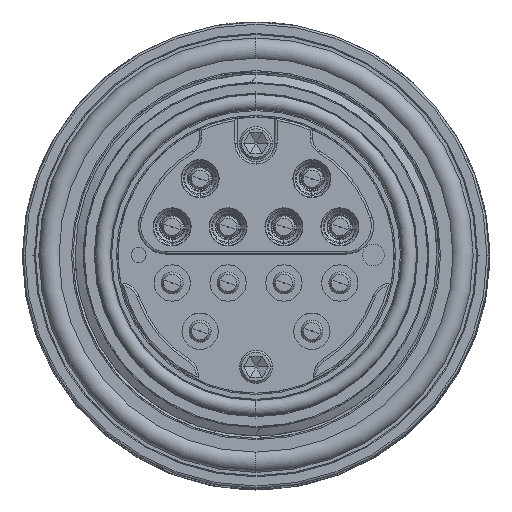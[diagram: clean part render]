
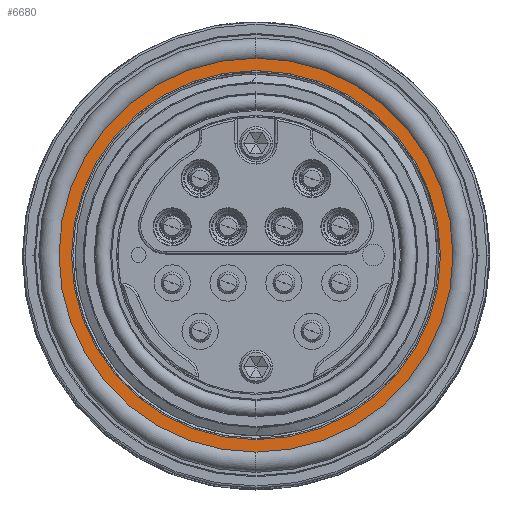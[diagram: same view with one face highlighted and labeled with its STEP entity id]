
A CAD part, top view. The second image highlights one B-rep face of the part: STEP entity #6680.
In plain terms, the highlighted planar face has unit normal (0, 0, 1).
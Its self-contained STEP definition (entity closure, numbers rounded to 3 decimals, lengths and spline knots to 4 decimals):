
#1917 = AXIS2_PLACEMENT_3D ( 'NONE', #44600, #92074, #90829 ) ;
#5339 = VERTEX_POINT ( 'NONE', #93580 ) ;
#6680 = ADVANCED_FACE ( 'NONE', ( #22360, #99563 ), #116722, .F. ) ;
#8022 = EDGE_CURVE ( 'NONE', #84928, #5339, #79585, .T. ) ;
#11185 = CARTESIAN_POINT ( 'NONE',  ( 0., -0.8809, -0.515 ) ) ;
#12459 = ORIENTED_EDGE ( 'NONE', *, *, #8022, .F. ) ;
#22360 = FACE_BOUND ( 'NONE', #39298, .T. ) ;
#23469 = DIRECTION ( 'NONE',  ( 1., 0., 0. ) ) ;
#26951 = EDGE_LOOP ( 'NONE', ( #12459, #123073 ) ) ;
#28556 = CARTESIAN_POINT ( 'NONE',  ( 0., 0., -0.515 ) ) ;
#29984 = CARTESIAN_POINT ( 'NONE',  ( 0., 0.8825, -0.515 ) ) ;
#39298 = EDGE_LOOP ( 'NONE', ( #82245, #96781 ) ) ;
#44600 = CARTESIAN_POINT ( 'NONE',  ( 0., 0., -0.515 ) ) ;
#45275 = DIRECTION ( 'NONE',  ( 0., 0., -1. ) ) ;
#48805 = DIRECTION ( 'NONE',  ( 1., 0., 0. ) ) ;
#50769 = EDGE_CURVE ( 'NONE', #68767, #116094, #108609, .T. ) ;
#51588 = AXIS2_PLACEMENT_3D ( 'NONE', #63300, #81663, #23469 ) ;
#53565 = CIRCLE ( 'NONE', #51588, 0.825 ) ;
#56489 = CIRCLE ( 'NONE', #1917, 0.8809 ) ;
#63015 = DIRECTION ( 'NONE',  ( 1., 0., 0. ) ) ;
#63300 = CARTESIAN_POINT ( 'NONE',  ( 0., 0., -0.515 ) ) ;
#63399 = AXIS2_PLACEMENT_3D ( 'NONE', #121295, #45275, #63015 ) ;
#68595 = DIRECTION ( 'NONE',  ( 0., 0., -1. ) ) ;
#68767 = VERTEX_POINT ( 'NONE', #83967 ) ;
#78292 = AXIS2_PLACEMENT_3D ( 'NONE', #28556, #87390, #48805 ) ;
#79585 = CIRCLE ( 'NONE', #63399, 0.8809 ) ;
#81663 = DIRECTION ( 'NONE',  ( 0., 0., 1. ) ) ;
#82245 = ORIENTED_EDGE ( 'NONE', *, *, #50769, .F. ) ;
#83967 = CARTESIAN_POINT ( 'NONE',  ( 0.825, 0., -0.515 ) ) ;
#84928 = VERTEX_POINT ( 'NONE', #11185 ) ;
#87390 = DIRECTION ( 'NONE',  ( 0., 0., 1. ) ) ;
#87997 = EDGE_CURVE ( 'NONE', #5339, #84928, #56489, .T. ) ;
#90829 = DIRECTION ( 'NONE',  ( 1., 0., 0. ) ) ;
#92074 = DIRECTION ( 'NONE',  ( 0., 0., -1. ) ) ;
#93580 = CARTESIAN_POINT ( 'NONE',  ( 0., 0.8809, -0.515 ) ) ;
#96458 = CARTESIAN_POINT ( 'NONE',  ( -0.825, 0., -0.515 ) ) ;
#96781 = ORIENTED_EDGE ( 'NONE', *, *, #118924, .F. ) ;
#99563 = FACE_OUTER_BOUND ( 'NONE', #26951, .T. ) ;
#103797 = AXIS2_PLACEMENT_3D ( 'NONE', #29984, #68595, #107224 ) ;
#107224 = DIRECTION ( 'NONE',  ( -1., 0., 0. ) ) ;
#108609 = CIRCLE ( 'NONE', #78292, 0.825 ) ;
#116094 = VERTEX_POINT ( 'NONE', #96458 ) ;
#116722 = PLANE ( 'NONE',  #103797 ) ;
#118924 = EDGE_CURVE ( 'NONE', #116094, #68767, #53565, .T. ) ;
#121295 = CARTESIAN_POINT ( 'NONE',  ( 0., 0., -0.515 ) ) ;
#123073 = ORIENTED_EDGE ( 'NONE', *, *, #87997, .F. ) ;
